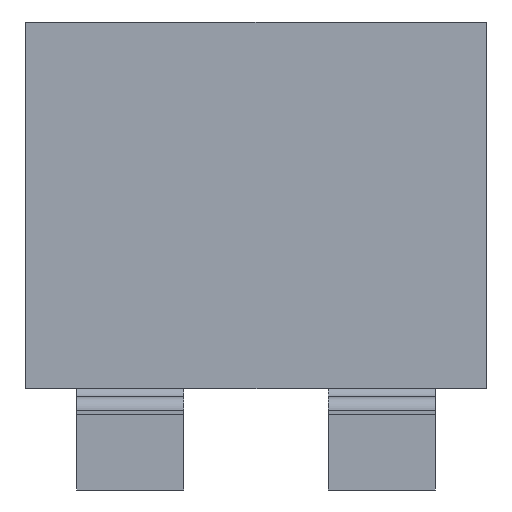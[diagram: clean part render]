
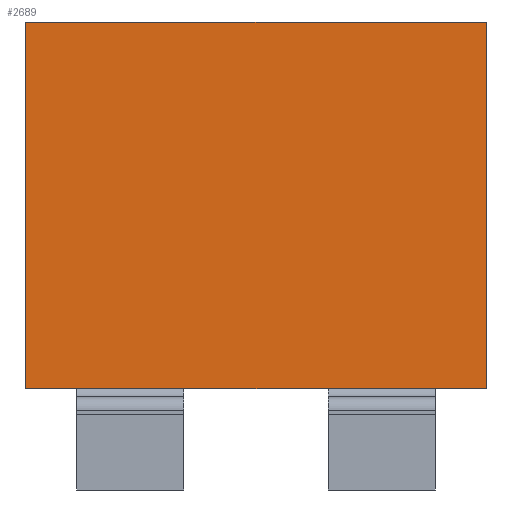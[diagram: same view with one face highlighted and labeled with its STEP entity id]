
A CAD part, front view. The second image highlights one B-rep face of the part: STEP entity #2689.
In plain terms, the highlighted planar face has unit normal (0, -1, 0).
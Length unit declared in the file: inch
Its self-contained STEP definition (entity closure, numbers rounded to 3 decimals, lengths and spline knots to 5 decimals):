
#182 = AXIS2_PLACEMENT_3D ( 'NONE', #2524, #3291, #950 ) ;
#194 = ORIENTED_EDGE ( 'NONE', *, *, #2121, .T. ) ;
#221 = DIRECTION ( 'NONE',  ( 0., 0., -1. ) ) ;
#240 = ORIENTED_EDGE ( 'NONE', *, *, #1415, .T. ) ;
#291 = LINE ( 'NONE', #405, #461 ) ;
#297 = CARTESIAN_POINT ( 'NONE',  ( 0.34055, 0., 0. ) ) ;
#321 = EDGE_CURVE ( 'NONE', #1916, #1452, #291, .T. ) ;
#405 = CARTESIAN_POINT ( 'NONE',  ( 0., 0., 0.27165 ) ) ;
#423 = CARTESIAN_POINT ( 'NONE',  ( 0.34055, 0., -0.27165 ) ) ;
#461 = VECTOR ( 'NONE', #2228, 39.37008 ) ;
#486 = CARTESIAN_POINT ( 'NONE',  ( -0.34055, 0., 0. ) ) ;
#498 = EDGE_CURVE ( 'NONE', #3332, #1275, #528, .T. ) ;
#504 = CARTESIAN_POINT ( 'NONE',  ( 0., 0., -0.27165 ) ) ;
#528 = LINE ( 'NONE', #504, #2563 ) ;
#645 = FACE_OUTER_BOUND ( 'NONE', #1595, .T. ) ;
#682 = CARTESIAN_POINT ( 'NONE',  ( 0.34055, 0., 0.27165 ) ) ;
#811 = VECTOR ( 'NONE', #2603, 39.37008 ) ;
#950 = DIRECTION ( 'NONE',  ( 0., 0., -1. ) ) ;
#1275 = VERTEX_POINT ( 'NONE', #423 ) ;
#1351 = LINE ( 'NONE', #297, #811 ) ;
#1415 = EDGE_CURVE ( 'NONE', #1452, #3332, #1646, .T. ) ;
#1432 = PLANE ( 'NONE',  #182 ) ;
#1447 = ORIENTED_EDGE ( 'NONE', *, *, #498, .T. ) ;
#1452 = VERTEX_POINT ( 'NONE', #3316 ) ;
#1595 = EDGE_LOOP ( 'NONE', ( #240, #1447, #194, #2355 ) ) ;
#1646 = LINE ( 'NONE', #486, #2015 ) ;
#1916 = VERTEX_POINT ( 'NONE', #682 ) ;
#2015 = VECTOR ( 'NONE', #221, 39.37008 ) ;
#2121 = EDGE_CURVE ( 'NONE', #1275, #1916, #1351, .T. ) ;
#2228 = DIRECTION ( 'NONE',  ( -1., 0., 0. ) ) ;
#2354 = DIRECTION ( 'NONE',  ( 1., 0., 0. ) ) ;
#2355 = ORIENTED_EDGE ( 'NONE', *, *, #321, .T. ) ;
#2524 = CARTESIAN_POINT ( 'NONE',  ( 0., 0., 0. ) ) ;
#2563 = VECTOR ( 'NONE', #2354, 39.37008 ) ;
#2603 = DIRECTION ( 'NONE',  ( 0., 0., 1. ) ) ;
#2689 = ADVANCED_FACE ( 'NONE', ( #645 ), #1432, .T. ) ;
#3291 = DIRECTION ( 'NONE',  ( 0., -1., 0. ) ) ;
#3316 = CARTESIAN_POINT ( 'NONE',  ( -0.34055, 0., 0.27165 ) ) ;
#3330 = CARTESIAN_POINT ( 'NONE',  ( -0.34055, 0., -0.27165 ) ) ;
#3332 = VERTEX_POINT ( 'NONE', #3330 ) ;
